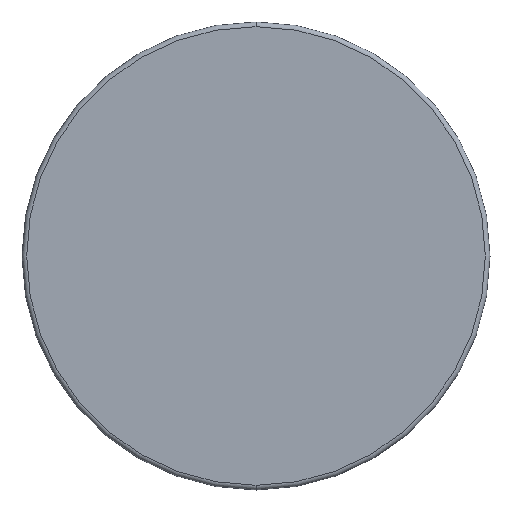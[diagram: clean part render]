
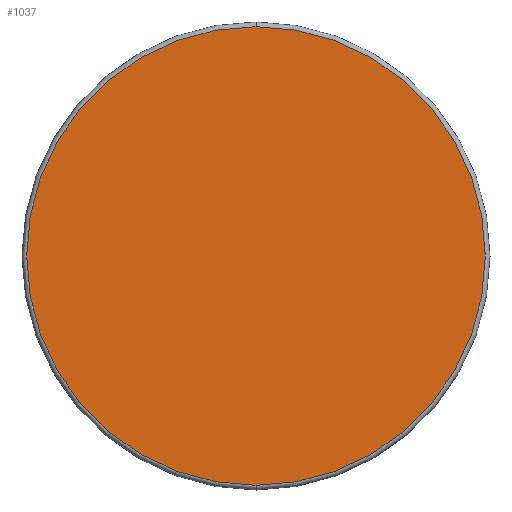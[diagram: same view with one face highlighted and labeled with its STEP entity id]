
A CAD part, front view. The second image highlights one B-rep face of the part: STEP entity #1037.
In plain terms, the highlighted planar face has unit normal (0, -1, 0).
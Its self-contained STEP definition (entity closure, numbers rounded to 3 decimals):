
#8 = AXIS2_PLACEMENT_3D ( 'NONE', #17, #382, #200 ) ;
#17 = CARTESIAN_POINT ( 'NONE',  ( 0., 0., 0. ) ) ;
#28 = ORIENTED_EDGE ( 'NONE', *, *, #462, .T. ) ;
#200 = DIRECTION ( 'NONE',  ( 0., 0., -1. ) ) ;
#267 = VERTEX_POINT ( 'NONE', #967 ) ;
#302 = ORIENTED_EDGE ( 'NONE', *, *, #593, .T. ) ;
#382 = DIRECTION ( 'NONE',  ( 0., -1., 0. ) ) ;
#462 = EDGE_CURVE ( 'NONE', #267, #646, #845, .T. ) ;
#508 = FACE_OUTER_BOUND ( 'NONE', #1084, .T. ) ;
#530 = CARTESIAN_POINT ( 'NONE',  ( 0., 0., 0. ) ) ;
#554 = DIRECTION ( 'NONE',  ( 0., -1., 0. ) ) ;
#593 = EDGE_CURVE ( 'NONE', #646, #267, #865, .T. ) ;
#646 = VERTEX_POINT ( 'NONE', #1041 ) ;
#767 = DIRECTION ( 'NONE',  ( 0., 0., -1. ) ) ;
#791 = PLANE ( 'NONE',  #1012 ) ;
#845 = CIRCLE ( 'NONE', #1150, 49. ) ;
#865 = CIRCLE ( 'NONE', #8, 49. ) ;
#896 = DIRECTION ( 'NONE',  ( 0., 1., 0. ) ) ;
#930 = CARTESIAN_POINT ( 'NONE',  ( 0., 0., 0. ) ) ;
#967 = CARTESIAN_POINT ( 'NONE',  ( 0., 0., 49. ) ) ;
#1012 = AXIS2_PLACEMENT_3D ( 'NONE', #530, #896, #1157 ) ;
#1037 = ADVANCED_FACE ( 'NONE', ( #508 ), #791, .F. ) ;
#1041 = CARTESIAN_POINT ( 'NONE',  ( 0., 0., -49. ) ) ;
#1084 = EDGE_LOOP ( 'NONE', ( #302, #28 ) ) ;
#1150 = AXIS2_PLACEMENT_3D ( 'NONE', #930, #554, #767 ) ;
#1157 = DIRECTION ( 'NONE',  ( 0., 0., 1. ) ) ;
